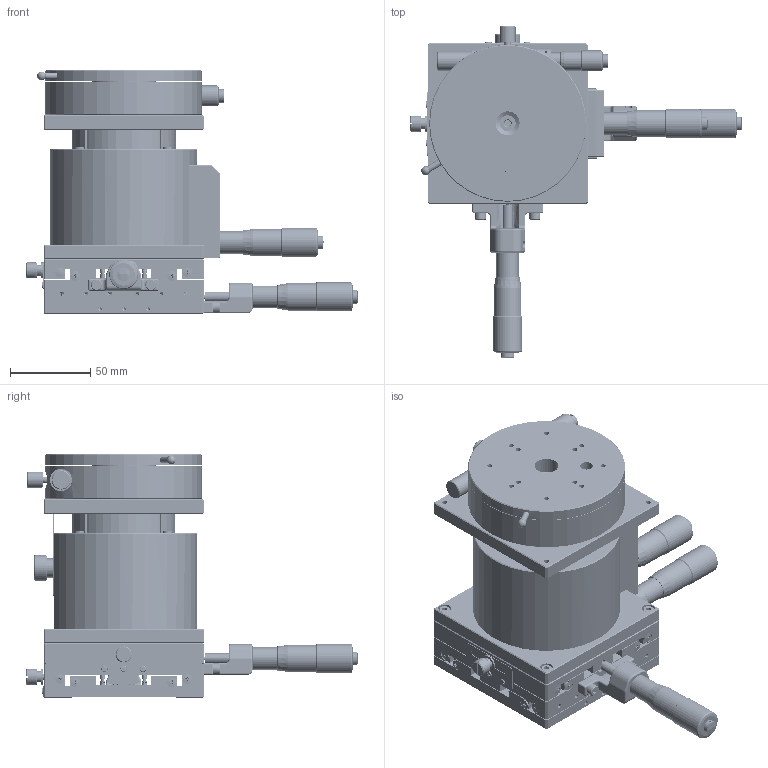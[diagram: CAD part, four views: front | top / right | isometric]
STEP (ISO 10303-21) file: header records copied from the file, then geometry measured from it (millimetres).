
FILE_DESCRIPTION((''),'2;1');
FILE_NAME('T:\Public\7_3次元データ\1図面ﾃﾞｰﾀ\2_OpticalHard\01_国内製品\1_Stags\TSD\100\TSD-1009C\TSD-1009C.stp','2009-04-20T18:09:58',('okegawa'),(''),'Autodesk Inventor 2008','Autodesk Inventor 2008','');
FILE_SCHEMA(('AUTOMOTIVE_DESIGN { 1 0 10303 214 1 1 1 1 }'));
Length unit declared in the file: millimetre
Products named in the file (6): TSD-1009C-C1-S24; TSD-1009C-C1-S17; TSD-1009C-C1-S19; TSD-1009C-C1-S22; TSD-1009C-C1-S23; TSD-1009C-C1-S14
Assembly tree (5 placements, depth 2):
  TSD-1009C-C1-S24
    TSD-1009C-C1-S17
    TSD-1009C-C1-S19
    TSD-1009C-C1-S22
    TSD-1009C-C1-S23
    TSD-1009C-C1-S14
Bounding box: 207.37 x 207.37 x 152 mm (x, y, z)
Volume: 1024554.2 mm3; surface area: 288564.1 mm2
Topology: 7 solids, 141 shells, 3030 faces, 7126 edges, 4613 vertices
Faces by surface type: plane 1468, cylinder 605, bspline 530, cone 331, sphere 54, torus 42
Full cylindrical faces by diameter (mm): 1.567 x6, 1.6 x4, 1.8 x8, 2 x38, 2.113 x6, 2.4 x6, 2.5 x7, 2.6 x14, 2.7 x2, 2.8 x4, 3 x27, 3.242 x7, 4 x32, 4.1 x2, 4.3 x1, 4.5 x2, 4.6 x1, 5 x7, 5.1 x1, 5.5 x4, 6 x28, 6.35 x6, 7 x24, 7.3 x2, 7.5 x1, 8 x6, 8.1 x1, 8.3 x6, 8.4 x3, 8.5 x11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
Entity records: 92057 total; most frequent: CARTESIAN_POINT 28753, DIRECTION 12747, ORIENTED_EDGE 11808, EDGE_CURVE 5904, AXIS2_PLACEMENT_3D 5036, EDGE_LOOP 4509, VERTEX_POINT 4279, FACE_OUTER_BOUND 3027
